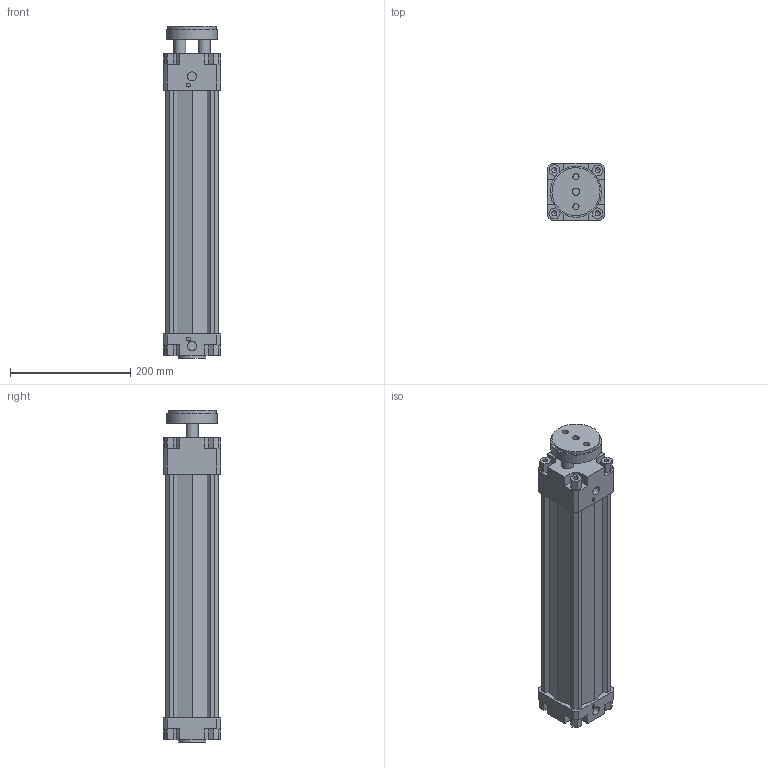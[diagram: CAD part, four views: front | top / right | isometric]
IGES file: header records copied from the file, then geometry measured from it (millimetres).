
Global section: file name: 134#_080_0350_01; native system: Autodesk Inventor 2014; preprocessor: unknown; author: A. Manieri; date: 20161006.165223; units: millimetre
Bounding box: 95 x 95 x 553 mm (x, y, z)
Volume: 2190879.3 mm3; surface area: 434475.1 mm2
Topology: 2 solids, 2 shells, 180 faces, 491 edges, 335 vertices
Faces by surface type: bspline 180
